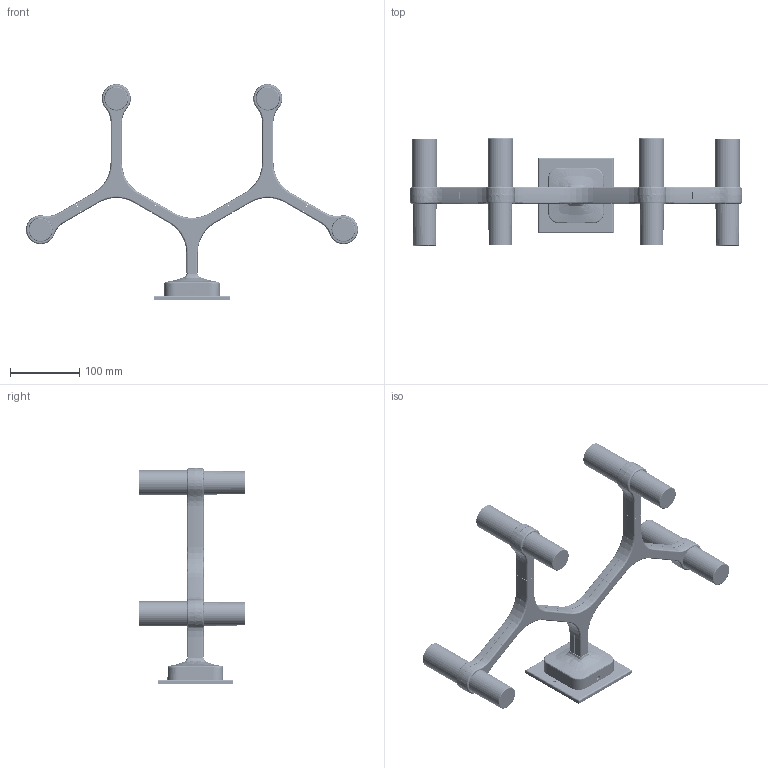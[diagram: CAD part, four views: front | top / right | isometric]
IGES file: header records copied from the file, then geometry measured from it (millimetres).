
Start section: SolidWorks IGES file using analytic representation for surfaces
Global section: file name: C:\Users\dtentori\Desktop\3d sito usa\CROWN WALL 4 luci\CROWN PARETE 4 LUCI cover plate.IGS; native system: SolidWorks 2016; preprocessor: SolidWorks 2016; author: dtentori; date: 170728.142939; units: millimetre
Bounding box: 479.51 x 154.5 x 311.75 mm (x, y, z)
Surface area: 329854 mm2 (no closed solid volume)
Topology: 0 solids, 0 shells, 6014 faces, 51737 edges, 51670 vertices
Faces by surface type: bspline 4731, revolution 1283
